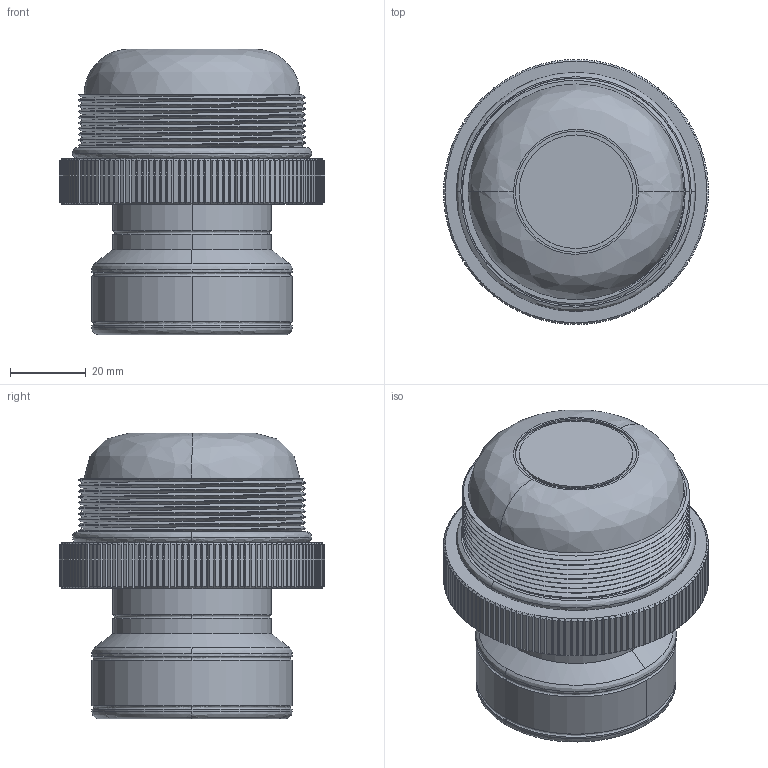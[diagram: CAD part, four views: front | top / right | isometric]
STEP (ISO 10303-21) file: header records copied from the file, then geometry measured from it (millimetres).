
FILE_DESCRIPTION (( 'STEP AP203' ), '1' );
FILE_NAME ('TM Mount without Bkt---IVIC.STEP', '2024-09-20T04:20:20', ( 'a' ), ( '' ), 'SwSTEP 2.0', 'SolidWorks 2007', '' );
FILE_SCHEMA (( 'CONFIG_CONTROL_DESIGN' ));
Length unit declared in the file: millimetre
Products named in the file (2): TM Mount without Bkt---IVIC; _D_TM_mount_01002_ル遽
Assembly tree (1 placements, depth 2):
  TM Mount without Bkt---IVIC
    _D_TM_mount_01002_ル遽
Bounding box: 70 x 70 x 75.5 mm (x, y, z)
Volume: 161241.5 mm3; surface area: 43157.9 mm2
Topology: 5 solids, 5 shells, 775 faces, 1726 edges, 970 vertices
Faces by surface type: plane 282, cone 266, cylinder 187, bspline 40
Entity records: 25399 total; most frequent: CARTESIAN_POINT 9149, ORIENTED_EDGE 3452, DIRECTION 3226, EDGE_CURVE 1726, AXIS2_PLACEMENT_3D 1374, VERTEX_POINT 970, EDGE_LOOP 788, FACE_OUTER_BOUND 775
